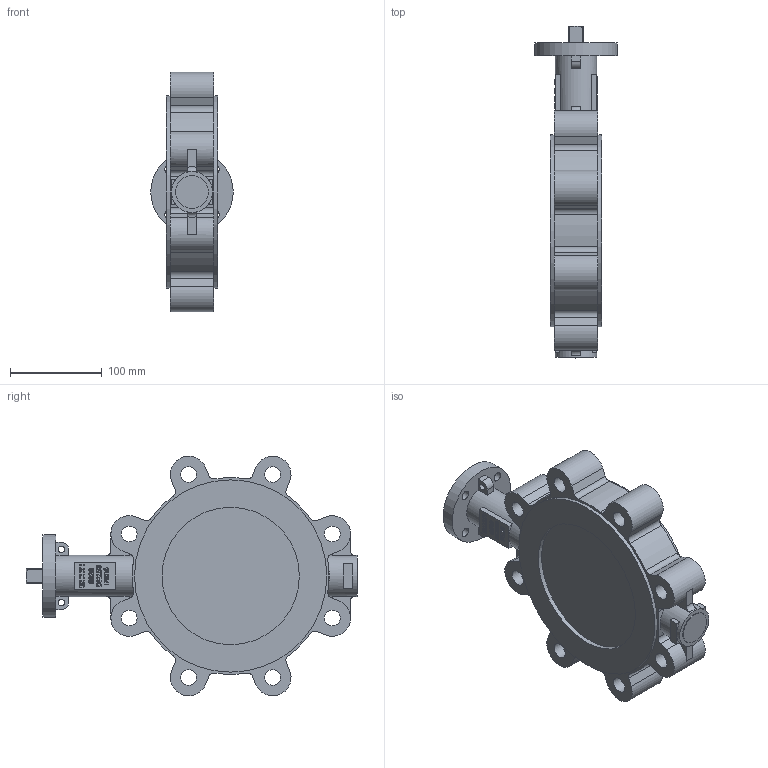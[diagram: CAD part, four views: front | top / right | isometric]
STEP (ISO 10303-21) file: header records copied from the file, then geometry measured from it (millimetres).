
FILE_DESCRIPTION(/* description */ (''),/* implementation_level */ '2;1');
FILE_NAME(/* name */ '6820-DN150-PN16-NBR - 13332784.stp',/* time_stamp */ '2024-09-04T22:01:21+02:00',/* author */ ('roger.thijssen'),/* organization */ (''),/* preprocessor_version */ 'ST-DEVELOPER v20',/* originating_system */ 'Autodesk Inventor 2024',/* authorisation */ '');
FILE_SCHEMA (('AUTOMOTIVE_DESIGN { 1 0 10303 214 3 1 1 }'));
Length unit declared in the file: millimetre
Products named in the file (1): 6820-DN150-PN16-1
Bounding box: 90 x 362.5 x 261.69 mm (x, y, z)
Volume: 2488089.2 mm3; surface area: 204510 mm2
Topology: 1 solids, 1 shells, 496 faces, 1358 edges, 901 vertices
Faces by surface type: plane 269, bspline 129, cylinder 89, cone 5, torus 4
Full cylindrical faces by diameter (mm): 4.917 x1, 7 x2, 10 x4, 17.294 x8, 36 x1, 45 x2, 90 x1, 150 x2, 210 x2
Entity records: 17640 total; most frequent: CARTESIAN_POINT 5138, ORIENTED_EDGE 2714, DIRECTION 2029, EDGE_CURVE 1357, VERTEX_POINT 901, LINE 853, VECTOR 853, AXIS2_PLACEMENT_3D 588
